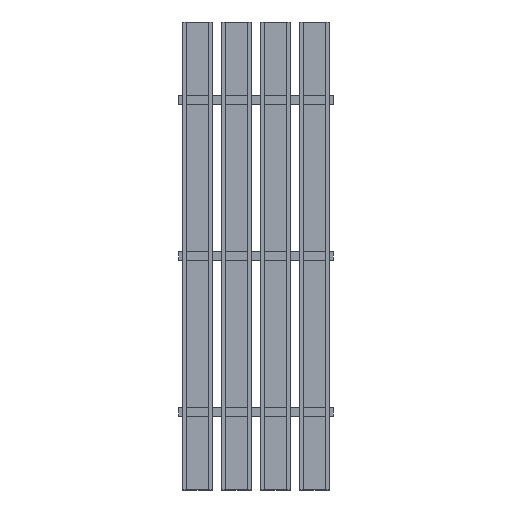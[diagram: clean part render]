
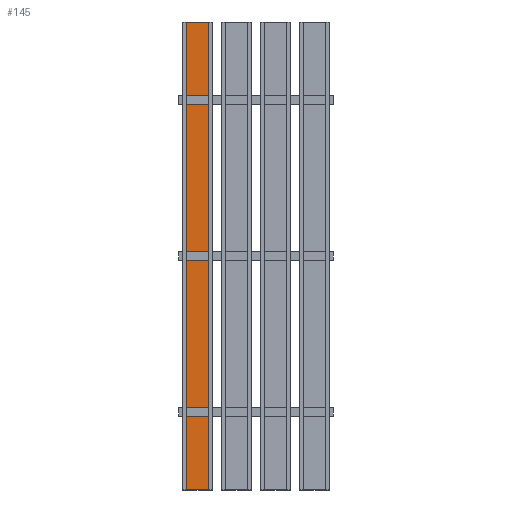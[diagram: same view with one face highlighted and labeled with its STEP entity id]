
A CAD part, top view. The second image highlights one B-rep face of the part: STEP entity #145.
In plain terms, the highlighted planar face has unit normal (0, 0, 1).
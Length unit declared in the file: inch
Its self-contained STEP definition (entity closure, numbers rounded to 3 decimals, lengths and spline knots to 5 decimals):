
#145=ADVANCED_FACE('',(#299),#2615,.T.);
#299=FACE_OUTER_BOUND('',#465,.T.);
#465=EDGE_LOOP('',(#956,#957,#958,#959));
#956=ORIENTED_EDGE('',*,*,#1646,.F.);
#957=ORIENTED_EDGE('',*,*,#1666,.T.);
#958=ORIENTED_EDGE('',*,*,#1652,.F.);
#959=ORIENTED_EDGE('',*,*,#1663,.F.);
#1646=EDGE_CURVE('',#2414,#2415,#2066,.T.);
#1652=EDGE_CURVE('',#2420,#2421,#2072,.T.);
#1663=EDGE_CURVE('',#2415,#2420,#2083,.T.);
#1666=EDGE_CURVE('',#2414,#2421,#2086,.T.);
#2066=B_SPLINE_CURVE_WITH_KNOTS('',1,(#3993,#3994),.UNSPECIFIED.,.F.,.F.,
(2,2),(0.,72.),.UNSPECIFIED.);
#2072=B_SPLINE_CURVE_WITH_KNOTS('',1,(#4005,#4006),.UNSPECIFIED.,.F.,.F.,
(2,2),(0.,72.),.UNSPECIFIED.);
#2083=B_SPLINE_CURVE_WITH_KNOTS('',1,(#4027,#4028),.UNSPECIFIED.,.F.,.F.,
(2,2),(0.,3.5),.UNSPECIFIED.);
#2086=B_SPLINE_CURVE_WITH_KNOTS('',1,(#4033,#4034),.UNSPECIFIED.,.F.,.F.,
(2,2),(0.,3.5),.UNSPECIFIED.);
#2414=VERTEX_POINT('',#3407);
#2415=VERTEX_POINT('',#3408);
#2420=VERTEX_POINT('',#3413);
#2421=VERTEX_POINT('',#3414);
#2615=PLANE('',#2860);
#2860=AXIS2_PLACEMENT_3D('',#3174,#3017,$);
#3017=DIRECTION('',(0.,0.,1.));
#3174=CARTESIAN_POINT('',(-15.89528,43.20472,-1.));
#3407=CARTESIAN_POINT('',(-19.75,-36.,-1.));
#3408=CARTESIAN_POINT('',(-19.75,36.,-1.));
#3413=CARTESIAN_POINT('',(-16.25,36.,-1.));
#3414=CARTESIAN_POINT('',(-16.25,-36.,-1.));
#3993=CARTESIAN_POINT('',(-19.75,-36.,-1.));
#3994=CARTESIAN_POINT('',(-19.75,36.,-1.));
#4005=CARTESIAN_POINT('',(-16.25,36.,-1.));
#4006=CARTESIAN_POINT('',(-16.25,-36.,-1.));
#4027=CARTESIAN_POINT('',(-19.75,36.,-1.));
#4028=CARTESIAN_POINT('',(-16.25,36.,-1.));
#4033=CARTESIAN_POINT('',(-19.75,-36.,-1.));
#4034=CARTESIAN_POINT('',(-16.25,-36.,-1.));
